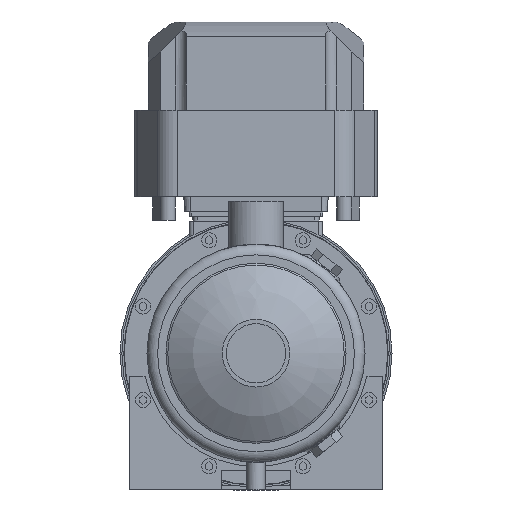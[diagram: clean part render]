
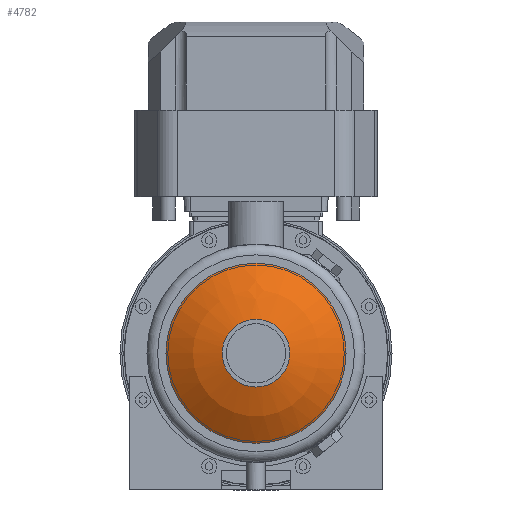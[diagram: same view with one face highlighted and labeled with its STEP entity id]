
A CAD part, left-side view. The second image highlights one B-rep face of the part: STEP entity #4782.
In plain terms, the highlighted spherical face has radius 100 mm.
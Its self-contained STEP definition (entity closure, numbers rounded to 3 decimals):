
#56=SPHERICAL_SURFACE('',#6205,100.);
#1132=ORIENTED_EDGE('',*,*,#2455,.T.);
#1133=ORIENTED_EDGE('',*,*,#2454,.F.);
#2454=EDGE_CURVE('',#3120,#3120,#3577,.T.);
#2455=EDGE_CURVE('',#3121,#3121,#3578,.T.);
#3120=VERTEX_POINT('',#8273);
#3121=VERTEX_POINT('',#8276);
#3577=CIRCLE('',#6204,22.25);
#3578=CIRCLE('',#6206,59.25);
#3770=EDGE_LOOP('',(#1132));
#3771=EDGE_LOOP('',(#1133));
#4185=FACE_BOUND('',#3770,.T.);
#4186=FACE_BOUND('',#3771,.T.);
#4782=ADVANCED_FACE('',(#4185,#4186),#56,.T.);
#6204=AXIS2_PLACEMENT_3D('',#8272,#6747,#6748);
#6205=AXIS2_PLACEMENT_3D('',#8274,#6749,#6750);
#6206=AXIS2_PLACEMENT_3D('',#8275,#6751,#6752);
#6747=DIRECTION('',(-1.,0.,0.));
#6748=DIRECTION('',(0.,0.,1.));
#6749=DIRECTION('',(-1.,0.,0.));
#6750=DIRECTION('',(0.,0.,1.));
#6751=DIRECTION('',(-1.,0.,0.));
#6752=DIRECTION('',(0.,0.,1.));
#8272=CARTESIAN_POINT('',(-140.693,0.,0.));
#8273=CARTESIAN_POINT('',(-140.693,0.,22.25));
#8274=CARTESIAN_POINT('',(-43.2,0.,0.));
#8275=CARTESIAN_POINT('',(-123.757,0.,0.));
#8276=CARTESIAN_POINT('',(-123.757,0.,59.25));
